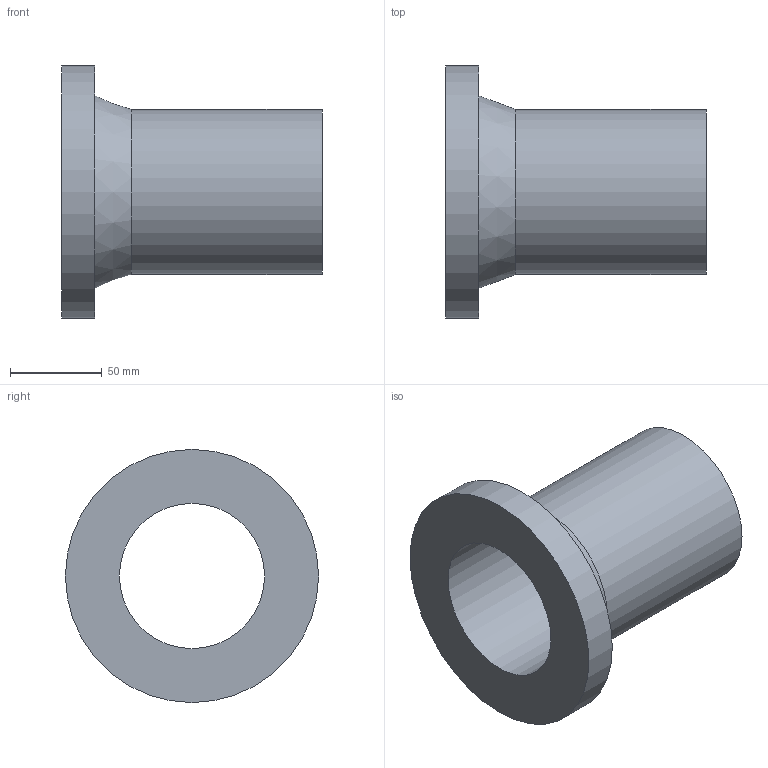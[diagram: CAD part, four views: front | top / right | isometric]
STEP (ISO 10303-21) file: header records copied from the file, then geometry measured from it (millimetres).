
FILE_DESCRIPTION(('Beschreibung'),'1');
FILE_NAME('V:/Ziel/25.80.01.063_SDR_17_PE100_090.STP', '2014-09-15T06:33:01',('Author'), ('Organization'), 'KCM Version 1.1.794.0', 'Kubotek KeyCreator', 'Authorization');
FILE_SCHEMA(('CONFIG_CONTROL_DESIGN'));
Length unit declared in the file: millimetre
Bounding box: 142 x 138 x 138 mm (x, y, z)
Volume: 380900.1 mm3; surface area: 96847.2 mm2
Topology: 1 solids, 1 shells, 7 faces, 18 edges, 21 vertices
Faces by surface type: cylinder 3, plane 3, cone 1
Full cylindrical faces by diameter (mm): 79.2 x1, 90 x1, 138 x1
Entity records: 286 total; most frequent: DIRECTION 41, CARTESIAN_POINT 33, ORIENTED_EDGE 22, AXIS2_PLACEMENT_3D 15, EDGE_CURVE 11, VECTOR 11, LINE 11, EDGE_LOOP 10
